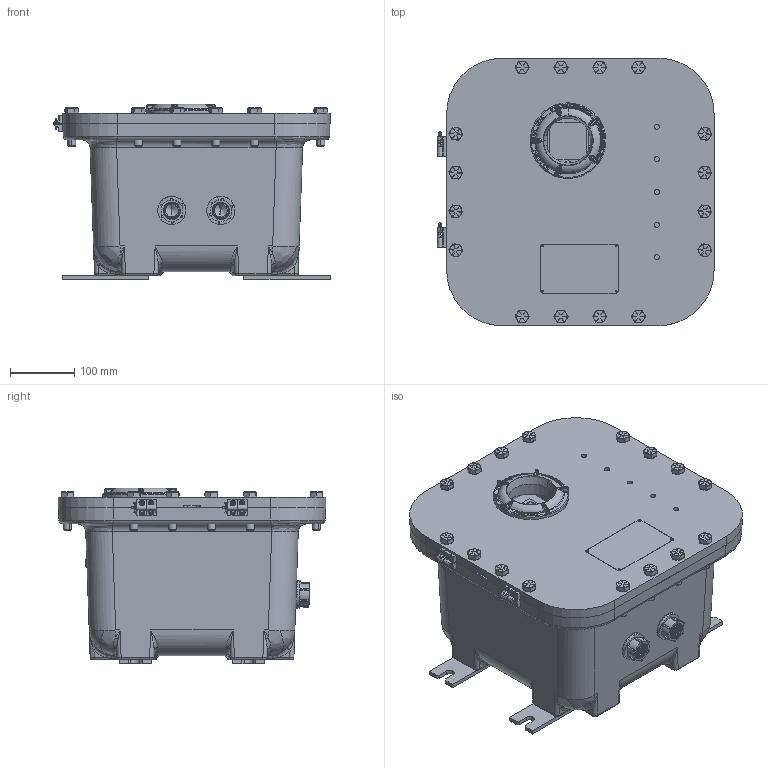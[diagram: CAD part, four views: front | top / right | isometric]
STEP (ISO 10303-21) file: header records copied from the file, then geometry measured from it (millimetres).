
FILE_DESCRIPTION (( 'STEP AP214' ), '1' );
FILE_NAME ('EXP-VFD-3P-480-1HP-2.5A-DCM.STEP', '2023-02-20T22:50:57', ( '' ), ( '' ), 'SwSTEP 2.0', 'SolidWorks 2020', '' );
FILE_SCHEMA (( 'AUTOMOTIVE_DESIGN' ));
Length unit declared in the file: inch
Products named in the file (25): 0106275B; FAB00001562A; 14729AAIB-1212; SAE J487a - 1_16 x 1_2   Extended Prong Square Cut Type; 17793.stp; 17794.stp; 0720361B; 24559-1; KIL_EXBLTP-12128 N34.stp; 0.75in Myers hub_7864T42; 24558-1; EXP-VFD-3P-480-1HP-2.5A-DCM; 17028; 25365ABAM (EXBLT-12128); HINGE 12; KIL_GRB-275.stp; GK3000-4T0055G; 24557; 25327AAAM; 20859AAAB; 16972AAAB; 24557_1
Assembly tree (60 placements, depth 5):
  EXP-VFD-3P-480-1HP-2.5A-DCM
    KIL_EXBLTP-12128 N34.stp
      25365ABAM (EXBLT-12128)
      25327AAAM
      0720361B  x16
      20859AAAB
      0106275B  x4
      16972AAAB  x8
      14729AAIB-1212
      HINGE 12
        24558-1
          24557
          24559-1
        24557_1
        SAE J487a - 1_16 x 1_2   Extended Prong Square Cut Type
        17028  x4
      HINGE 12
        24558-1
          24557
          24559-1
        24557_1
        SAE J487a - 1_16 x 1_2   Extended Prong Square Cut Type
        17028  x4
    KIL_GRB-275.stp
      17793.stp
      17794.stp
    GK3000-4T0055G
    FAB00001562A
    0.75in Myers hub_7864T42
    0.75in Myers hub_7864T42
Bounding box: 431.01 x 415.93 x 273.05 mm (x, y, z)
Volume: 19244315.2 mm3; surface area: 1993674.5 mm2
Topology: 56 solids, 57 shells, 5889 faces, 15333 edges, 9700 vertices
Faces by surface type: plane 3229, bspline 1231, cylinder 866, cone 488, torus 49, sphere 26
Entity records: 207627 total; most frequent: CARTESIAN_POINT 90730, ORIENTED_EDGE 21294, DIRECTION 15069, EDGE_CURVE 10647, VERTEX_POINT 6847, VECTOR 5379, LINE 5379, AXIS2_PLACEMENT_3D 4845
